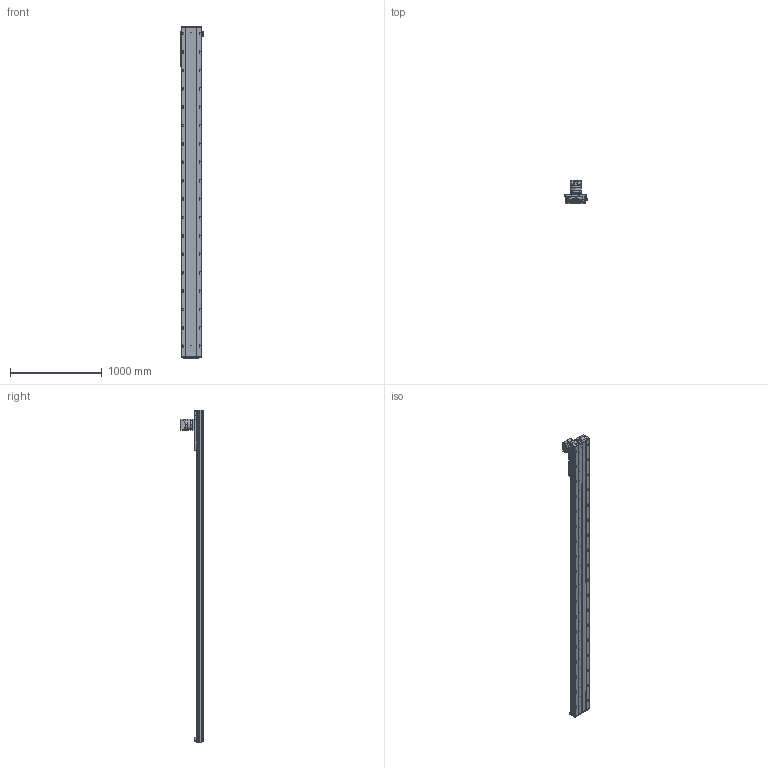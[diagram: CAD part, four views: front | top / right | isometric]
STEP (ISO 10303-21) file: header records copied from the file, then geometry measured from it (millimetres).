
FILE_DESCRIPTION (( 'STEP AP203' ), '1' );
FILE_NAME ('RY220-C-300-UK.SLDASM_3100.step', '2022-08-01T06:00:45', ( '' ), ( '' ), 'SwSTEP 2.0', 'SolidWorks 2016', '' );
FILE_SCHEMA (( 'CONFIG_CONTROL_DESIGN' ));
Length unit declared in the file: millimetre
Products named in the file (10): RY220喘沭賑輸; 覜茼ん674; RY220喘沭綴裔啣; PF115L1-S2-22-58-110-145-M8; RY220菁釱MK-300_3100; RY140直线电机感应器674光电安装座; RY220-C-300-UK.SLDASM_3100; RY220-齿条模组电机安装板; 滅袉蝶輸ㄗG412隅秶ㄘ; RY220喘沭俋离覜茼え
Assembly tree (12 placements, depth 2):
  RY220-C-300-UK.SLDASM_3100
    RY220菁釱MK-300_3100
    RY220喘沭賑輸
    RY220-齿条模组电机安装板
    PF115L1-S2-22-58-110-145-M8
    RY220喘沭綴裔啣  x2
    滅袉蝶輸ㄗG412隅秶ㄘ  x2
    RY140直线电机感应器674光电安装座
    覜茼ん674  x2
    RY220喘沭俋离覜茼え
Bounding box: 247 x 244.5 x 3609 mm (x, y, z)
Volume: 23698035.6 mm3; surface area: 4902076.7 mm2
Topology: 18 solids, 26 shells, 2458 faces, 6629 edges, 4119 vertices
Faces by surface type: cylinder 1211, plane 751, cone 334, bspline 162
Entity records: 78213 total; most frequent: CARTESIAN_POINT 21121, DIRECTION 11851, ORIENTED_EDGE 11490, EDGE_CURVE 5745, AXIS2_PLACEMENT_3D 4557, VERTEX_POINT 3745, EDGE_LOOP 2902, VECTOR 2737
